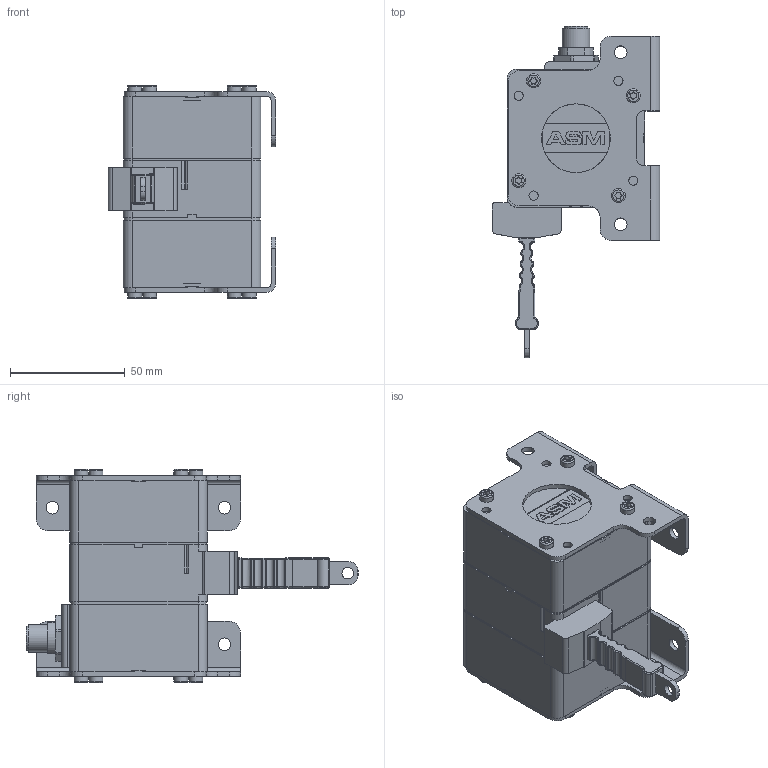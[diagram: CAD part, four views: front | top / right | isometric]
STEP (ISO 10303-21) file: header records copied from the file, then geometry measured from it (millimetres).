
FILE_DESCRIPTION((''),'2;1');
FILE_NAME('C:\Dokumente und Einstellungen\welter\Desktop\WB61-4000- -I.stp','2014-02-11T11:44:44',('welter'),(''),'Autodesk Inventor 2008','Autodesk Inventor 2008','');
FILE_SCHEMA(('AUTOMOTIVE_DESIGN { 1 0 10303 214 1 1 1 1 }'));
Length unit declared in the file: millimetre
Products named in the file (1): Bauteil2
Bounding box: 72.99 x 144.7 x 92.9 mm (x, y, z)
Volume: 334445.5 mm3; surface area: 44073.1 mm2
Topology: 2 solids, 10 shells, 812 faces, 2110 edges, 1346 vertices
Faces by surface type: plane 321, cylinder 266, bspline 182, sphere 34, torus 8, cone 1
Full cylindrical faces by diameter (mm): 0.6 x8, 5.5 x4, 6.1 x8, 10.4 x1, 12 x1, 30 x2
Entity records: 28552 total; most frequent: CARTESIAN_POINT 8636, ORIENTED_EDGE 4018, DIRECTION 3814, EDGE_CURVE 2009, AXIS2_PLACEMENT_3D 1361, VERTEX_POINT 1318, VECTOR 1092, LINE 1092
